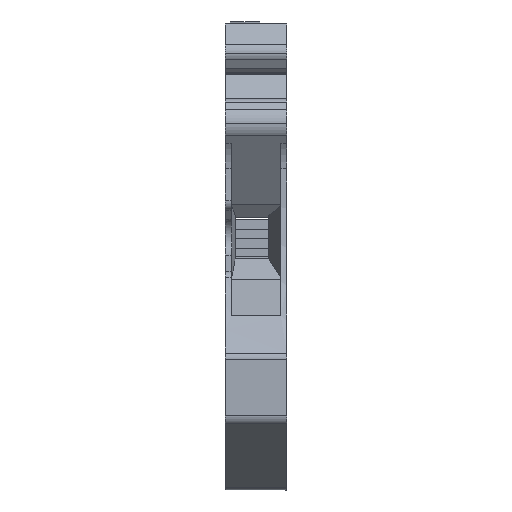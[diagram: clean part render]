
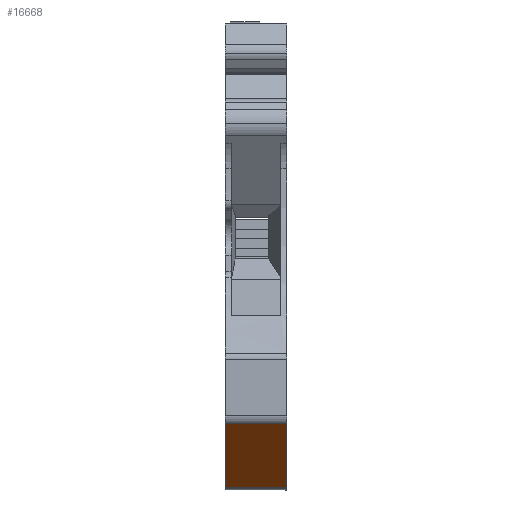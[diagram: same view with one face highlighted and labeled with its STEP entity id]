
A CAD part, front view. The second image highlights one B-rep face of the part: STEP entity #16668.
In plain terms, the highlighted planar face has unit normal (0, -0.643, -0.766).
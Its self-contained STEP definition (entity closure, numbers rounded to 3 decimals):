
#218 = CARTESIAN_POINT ( 'NONE',  ( -6.2, -14.42, -46.809 ) ) ;
#242 = AXIS2_PLACEMENT_3D ( 'NONE', #14368, #6500, #13211 ) ;
#545 = VERTEX_POINT ( 'NONE', #12310 ) ;
#922 = CARTESIAN_POINT ( 'NONE',  ( 0., -22.177, -40.3 ) ) ;
#2215 = CARTESIAN_POINT ( 'NONE',  ( -6.2, -14.42, -46.809 ) ) ;
#2797 = LINE ( 'NONE', #5463, #3422 ) ;
#3265 = EDGE_LOOP ( 'NONE', ( #11505, #12584, #11793, #10253 ) ) ;
#3398 = EDGE_CURVE ( 'NONE', #6147, #545, #2797, .T. ) ;
#3422 = VECTOR ( 'NONE', #12366, 1000. ) ;
#3943 = DIRECTION ( 'NONE',  ( -1., 0., 0. ) ) ;
#4441 = VERTEX_POINT ( 'NONE', #16493 ) ;
#4864 = LINE ( 'NONE', #2215, #12949 ) ;
#4956 = PLANE ( 'NONE',  #242 ) ;
#5272 = CARTESIAN_POINT ( 'NONE',  ( 0., -14.42, -46.809 ) ) ;
#5463 = CARTESIAN_POINT ( 'NONE',  ( 0., -22.177, -40.3 ) ) ;
#6147 = VERTEX_POINT ( 'NONE', #922 ) ;
#6500 = DIRECTION ( 'NONE',  ( 0., 0.643, 0.766 ) ) ;
#7521 = EDGE_CURVE ( 'NONE', #4441, #6147, #7590, .T. ) ;
#7590 = LINE ( 'NONE', #7878, #16228 ) ;
#7640 = DIRECTION ( 'NONE',  ( 0., -0.766, 0.643 ) ) ;
#7689 = DIRECTION ( 'NONE',  ( 1., 0., 0. ) ) ;
#7878 = CARTESIAN_POINT ( 'NONE',  ( -6.2, -22.177, -40.3 ) ) ;
#8814 = VECTOR ( 'NONE', #3943, 1000. ) ;
#10253 = ORIENTED_EDGE ( 'NONE', *, *, #7521, .F. ) ;
#11505 = ORIENTED_EDGE ( 'NONE', *, *, #11648, .F. ) ;
#11648 = EDGE_CURVE ( 'NONE', #12647, #4441, #4864, .T. ) ;
#11793 = ORIENTED_EDGE ( 'NONE', *, *, #3398, .F. ) ;
#12310 = CARTESIAN_POINT ( 'NONE',  ( 0., -14.42, -46.809 ) ) ;
#12366 = DIRECTION ( 'NONE',  ( 0., 0.766, -0.643 ) ) ;
#12584 = ORIENTED_EDGE ( 'NONE', *, *, #14318, .F. ) ;
#12647 = VERTEX_POINT ( 'NONE', #218 ) ;
#12949 = VECTOR ( 'NONE', #7640, 1000. ) ;
#13211 = DIRECTION ( 'NONE',  ( 1., 0., 0. ) ) ;
#14318 = EDGE_CURVE ( 'NONE', #545, #12647, #14604, .T. ) ;
#14368 = CARTESIAN_POINT ( 'NONE',  ( 0., -23.459, -39.224 ) ) ;
#14551 = FACE_OUTER_BOUND ( 'NONE', #3265, .T. ) ;
#14604 = LINE ( 'NONE', #5272, #8814 ) ;
#16228 = VECTOR ( 'NONE', #7689, 1000. ) ;
#16493 = CARTESIAN_POINT ( 'NONE',  ( -6.2, -22.177, -40.3 ) ) ;
#16668 = ADVANCED_FACE ( 'NONE', ( #14551 ), #4956, .F. ) ;
